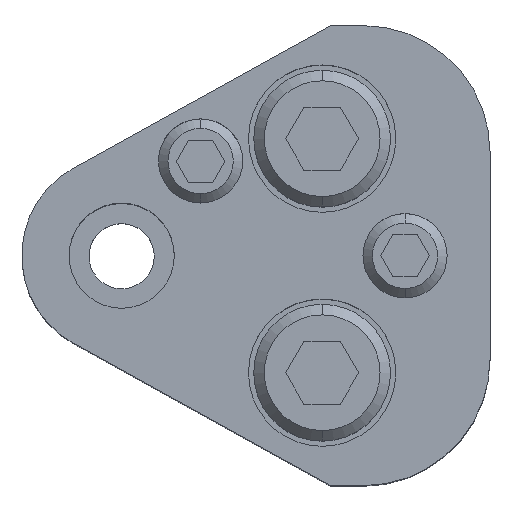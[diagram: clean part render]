
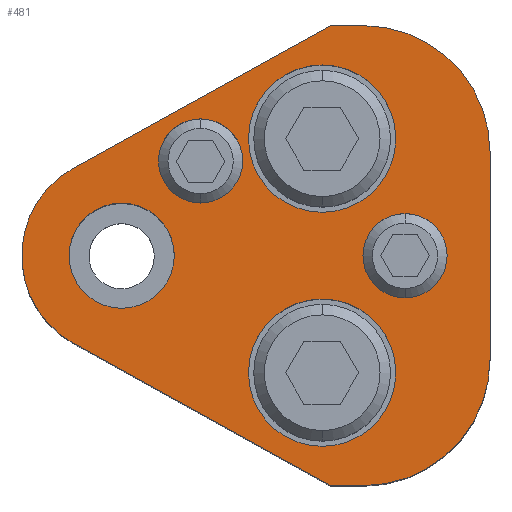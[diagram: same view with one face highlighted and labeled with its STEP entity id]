
A CAD part, top view. The second image highlights one B-rep face of the part: STEP entity #481.
In plain terms, the highlighted planar face has unit normal (0, 0, 1).
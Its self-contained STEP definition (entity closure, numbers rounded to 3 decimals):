
#213=FACE_BOUND('',#843,.T.);
#214=FACE_BOUND('',#844,.T.);
#215=FACE_BOUND('',#845,.T.);
#216=FACE_BOUND('',#846,.T.);
#217=FACE_BOUND('',#847,.T.);
#218=FACE_BOUND('',#848,.T.);
#303=CIRCLE('',#2712,12.);
#305=CIRCLE('',#2716,12.);
#308=CIRCLE('',#2722,9.5);
#309=CIRCLE('',#2724,4.);
#311=CIRCLE('',#2727,4.);
#313=CIRCLE('',#2730,4.);
#315=CIRCLE('',#2733,4.);
#325=CIRCLE('',#2748,7.);
#326=CIRCLE('',#2749,7.);
#327=CIRCLE('',#2750,7.);
#328=CIRCLE('',#2751,7.);
#329=CIRCLE('',#2752,5.);
#330=CIRCLE('',#2753,5.);
#481=ADVANCED_FACE('',(#213,#214,#215,#216,#217,#218),#595,.T.);
#595=PLANE('',#2754);
#843=EDGE_LOOP('',(#1257,#1258,#1259,#1260,#1261,#1262,#1263,#1264));
#844=EDGE_LOOP('',(#1265,#1266));
#845=EDGE_LOOP('',(#1267,#1268));
#846=EDGE_LOOP('',(#1269,#1270));
#847=EDGE_LOOP('',(#1271,#1272));
#848=EDGE_LOOP('',(#1273,#1274));
#1257=ORIENTED_EDGE('',*,*,#1996,.T.);
#1258=ORIENTED_EDGE('',*,*,#2000,.T.);
#1259=ORIENTED_EDGE('',*,*,#2003,.T.);
#1260=ORIENTED_EDGE('',*,*,#2006,.T.);
#1261=ORIENTED_EDGE('',*,*,#2009,.T.);
#1262=ORIENTED_EDGE('',*,*,#2012,.T.);
#1263=ORIENTED_EDGE('',*,*,#2015,.T.);
#1264=ORIENTED_EDGE('',*,*,#2018,.T.);
#1265=ORIENTED_EDGE('',*,*,#2043,.F.);
#1266=ORIENTED_EDGE('',*,*,#2044,.F.);
#1267=ORIENTED_EDGE('',*,*,#2045,.F.);
#1268=ORIENTED_EDGE('',*,*,#2046,.F.);
#1269=ORIENTED_EDGE('',*,*,#2029,.F.);
#1270=ORIENTED_EDGE('',*,*,#2025,.F.);
#1271=ORIENTED_EDGE('',*,*,#2023,.F.);
#1272=ORIENTED_EDGE('',*,*,#2019,.F.);
#1273=ORIENTED_EDGE('',*,*,#2047,.T.);
#1274=ORIENTED_EDGE('',*,*,#2048,.T.);
#1728=VERTEX_POINT('',#4024);
#1729=VERTEX_POINT('',#4026);
#1732=VERTEX_POINT('',#4033);
#1734=VERTEX_POINT('',#4039);
#1736=VERTEX_POINT('',#4045);
#1738=VERTEX_POINT('',#4051);
#1740=VERTEX_POINT('',#4057);
#1742=VERTEX_POINT('',#4063);
#1743=VERTEX_POINT('',#4071);
#1744=VERTEX_POINT('',#4072);
#1747=VERTEX_POINT('',#4083);
#1748=VERTEX_POINT('',#4084);
#1759=VERTEX_POINT('',#4119);
#1760=VERTEX_POINT('',#4120);
#1761=VERTEX_POINT('',#4123);
#1762=VERTEX_POINT('',#4124);
#1763=VERTEX_POINT('',#4127);
#1764=VERTEX_POINT('',#4128);
#1996=EDGE_CURVE('',#1729,#1728,#2294,.T.);
#2000=EDGE_CURVE('',#1728,#1732,#2298,.T.);
#2003=EDGE_CURVE('',#1732,#1734,#303,.T.);
#2006=EDGE_CURVE('',#1734,#1736,#2302,.T.);
#2009=EDGE_CURVE('',#1736,#1738,#305,.T.);
#2012=EDGE_CURVE('',#1738,#1740,#2306,.T.);
#2015=EDGE_CURVE('',#1740,#1742,#2309,.T.);
#2018=EDGE_CURVE('',#1742,#1729,#308,.T.);
#2019=EDGE_CURVE('',#1743,#1744,#309,.T.);
#2023=EDGE_CURVE('',#1744,#1743,#311,.T.);
#2025=EDGE_CURVE('',#1747,#1748,#313,.T.);
#2029=EDGE_CURVE('',#1748,#1747,#315,.T.);
#2043=EDGE_CURVE('',#1759,#1760,#325,.T.);
#2044=EDGE_CURVE('',#1760,#1759,#326,.T.);
#2045=EDGE_CURVE('',#1761,#1762,#327,.T.);
#2046=EDGE_CURVE('',#1762,#1761,#328,.T.);
#2047=EDGE_CURVE('',#1763,#1764,#329,.T.);
#2048=EDGE_CURVE('',#1764,#1763,#330,.T.);
#2294=LINE('',#4025,#2486);
#2298=LINE('',#4034,#2490);
#2302=LINE('',#4046,#2494);
#2306=LINE('',#4058,#2498);
#2309=LINE('',#4064,#2501);
#2486=VECTOR('',#3186,1.);
#2490=VECTOR('',#3192,1.);
#2494=VECTOR('',#3204,1.);
#2498=VECTOR('',#3216,1.);
#2501=VECTOR('',#3221,1.);
#2712=AXIS2_PLACEMENT_3D('',#4040,#3197,#3198);
#2716=AXIS2_PLACEMENT_3D('',#4052,#3209,#3210);
#2722=AXIS2_PLACEMENT_3D('',#4068,#3227,#3228);
#2724=AXIS2_PLACEMENT_3D('',#4070,#3231,#3232);
#2727=AXIS2_PLACEMENT_3D('',#4079,#3239,#3240);
#2730=AXIS2_PLACEMENT_3D('',#4082,#3245,#3246);
#2733=AXIS2_PLACEMENT_3D('',#4091,#3253,#3254);
#2748=AXIS2_PLACEMENT_3D('',#4118,#3287,#3288);
#2749=AXIS2_PLACEMENT_3D('',#4121,#3289,#3290);
#2750=AXIS2_PLACEMENT_3D('',#4122,#3291,#3292);
#2751=AXIS2_PLACEMENT_3D('',#4125,#3293,#3294);
#2752=AXIS2_PLACEMENT_3D('',#4126,#3295,#3296);
#2753=AXIS2_PLACEMENT_3D('',#4129,#3297,#3298);
#2754=AXIS2_PLACEMENT_3D('',#4130,#3299,#3300);
#3186=DIRECTION('',(0.875,-0.485,0.));
#3192=DIRECTION('',(1.,0.,0.));
#3197=DIRECTION('',(0.,0.,1.));
#3198=DIRECTION('',(-0.707,0.707,0.));
#3204=DIRECTION('',(0.,1.,0.));
#3209=DIRECTION('',(0.,0.,1.));
#3210=DIRECTION('',(-0.707,-0.707,0.));
#3216=DIRECTION('',(-1.,0.,0.));
#3221=DIRECTION('',(-0.875,-0.485,0.));
#3227=DIRECTION('',(0.,0.,1.));
#3228=DIRECTION('',(1.,0.,0.));
#3231=DIRECTION('',(0.,0.,1.));
#3232=DIRECTION('',(-1.,0.,0.));
#3239=DIRECTION('',(0.,0.,1.));
#3240=DIRECTION('',(1.,0.,0.));
#3245=DIRECTION('',(0.,0.,1.));
#3246=DIRECTION('',(-1.,0.,0.));
#3253=DIRECTION('',(0.,0.,1.));
#3254=DIRECTION('',(1.,0.,0.));
#3287=DIRECTION('',(0.,0.,1.));
#3288=DIRECTION('',(1.,0.,0.));
#3289=DIRECTION('',(0.,0.,1.));
#3290=DIRECTION('',(-1.,0.,0.));
#3291=DIRECTION('',(0.,0.,1.));
#3292=DIRECTION('',(1.,0.,0.));
#3293=DIRECTION('',(0.,0.,1.));
#3294=DIRECTION('',(-1.,0.,0.));
#3295=DIRECTION('',(0.,0.,-1.));
#3296=DIRECTION('',(-1.,0.,0.));
#3297=DIRECTION('',(0.,0.,-1.));
#3298=DIRECTION('',(1.,0.,0.));
#3299=DIRECTION('',(0.,0.,1.));
#3300=DIRECTION('',(-0.875,0.485,0.));
#4024=CARTESIAN_POINT('',(19.823,-21.85,37.));
#4025=CARTESIAN_POINT('',(19.823,-21.85,37.));
#4026=CARTESIAN_POINT('',(-4.606,-8.309,37.));
#4033=CARTESIAN_POINT('',(23.,-21.85,37.));
#4034=CARTESIAN_POINT('',(19.823,-21.85,37.));
#4039=CARTESIAN_POINT('',(35.,-9.85,37.));
#4040=CARTESIAN_POINT('',(23.,-9.85,37.));
#4045=CARTESIAN_POINT('',(35.,9.85,37.));
#4046=CARTESIAN_POINT('',(35.,9.85,37.));
#4051=CARTESIAN_POINT('',(23.,21.85,37.));
#4052=CARTESIAN_POINT('',(23.,9.85,37.));
#4057=CARTESIAN_POINT('',(19.823,21.85,37.));
#4058=CARTESIAN_POINT('',(19.823,21.85,37.));
#4063=CARTESIAN_POINT('',(-4.606,8.309,37.));
#4064=CARTESIAN_POINT('',(19.823,21.85,37.));
#4068=CARTESIAN_POINT('',(0.,0.,37.));
#4070=CARTESIAN_POINT('',(7.5,9.,37.));
#4071=CARTESIAN_POINT('',(7.5,5.,37.));
#4072=CARTESIAN_POINT('',(7.5,13.,37.));
#4079=CARTESIAN_POINT('',(7.5,9.,37.));
#4082=CARTESIAN_POINT('',(26.925,0.,37.));
#4083=CARTESIAN_POINT('',(26.925,-4.,37.));
#4084=CARTESIAN_POINT('',(26.925,4.,37.));
#4091=CARTESIAN_POINT('',(26.925,0.,37.));
#4118=CARTESIAN_POINT('',(19.05,11.12,37.));
#4119=CARTESIAN_POINT('',(19.05,18.12,37.));
#4120=CARTESIAN_POINT('',(19.05,4.12,37.));
#4121=CARTESIAN_POINT('',(19.05,11.12,37.));
#4122=CARTESIAN_POINT('',(19.05,-11.12,37.));
#4123=CARTESIAN_POINT('',(19.05,-4.12,37.));
#4124=CARTESIAN_POINT('',(19.05,-18.12,37.));
#4125=CARTESIAN_POINT('',(19.05,-11.12,37.));
#4126=CARTESIAN_POINT('',(0.,0.,37.));
#4127=CARTESIAN_POINT('',(0.,5.,37.));
#4128=CARTESIAN_POINT('',(0.,-5.,37.));
#4129=CARTESIAN_POINT('',(0.,0.,37.));
#4130=CARTESIAN_POINT('',(-4.606,-8.309,37.));
